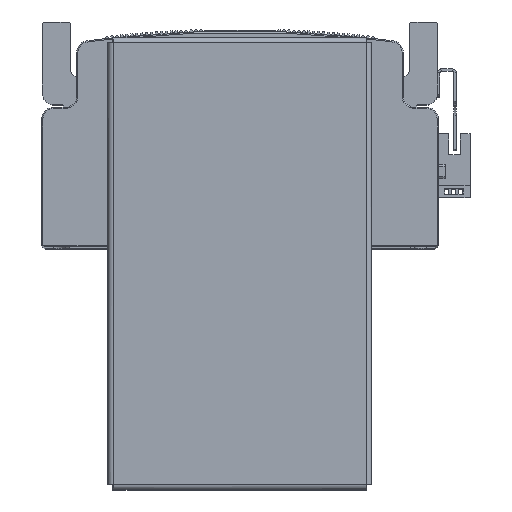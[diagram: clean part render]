
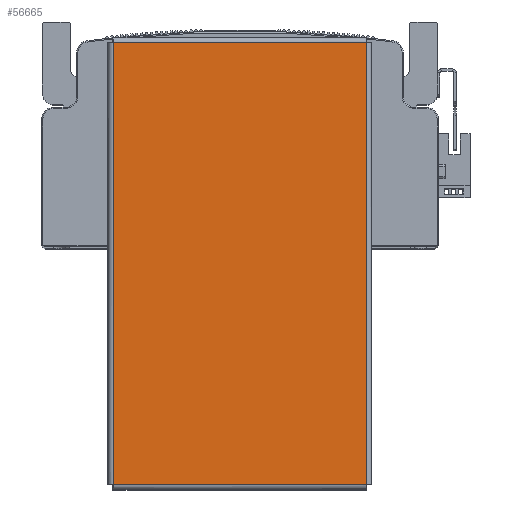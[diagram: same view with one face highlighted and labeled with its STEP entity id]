
A CAD part, top view. The second image highlights one B-rep face of the part: STEP entity #56665.
In plain terms, the highlighted planar face has unit normal (0, 0, 1) as drawn and (0, -1, 0) by its records, which use the part's own axes.
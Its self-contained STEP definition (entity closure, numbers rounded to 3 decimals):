
#2137 = EDGE_LOOP ( 'NONE', ( #43459, #43416, #43505, #43516 ) ) ;
#6249 = CARTESIAN_POINT ( 'NONE',  ( -94.763, -1.5, 54.393 ) ) ;
#6250 = DIRECTION ( 'NONE',  ( -1., 0., 0. ) ) ;
#6276 = DIRECTION ( 'NONE',  ( 0., 0., -1. ) ) ;
#6281 = CARTESIAN_POINT ( 'NONE',  ( 94.793, -1.5, 54.363 ) ) ;
#7143 = CARTESIAN_POINT ( 'NONE',  ( -94.793, -1.5, -54.363 ) ) ;
#7149 = CARTESIAN_POINT ( 'NONE',  ( 94.763, -1.5, -54.393 ) ) ;
#7151 = DIRECTION ( 'NONE',  ( 1., 0., 0. ) ) ;
#7161 = DIRECTION ( 'NONE',  ( 0., 0., 1. ) ) ;
#19207 = LINE ( 'NONE', #7149, #19230 ) ;
#19208 = VECTOR ( 'NONE', #7151, 1000. ) ;
#19222 = LINE ( 'NONE', #6281, #19223 ) ;
#19223 = VECTOR ( 'NONE', #6250, 1000. ) ;
#19230 = VECTOR ( 'NONE', #7161, 1000. ) ;
#19232 = LINE ( 'NONE', #6249, #19247 ) ;
#19238 = LINE ( 'NONE', #7143, #19208 ) ;
#19247 = VECTOR ( 'NONE', #6276, 1000. ) ;
#23001 = FACE_OUTER_BOUND ( 'NONE', #2137, .T. ) ;
#24962 = PLANE ( 'NONE',  #25401 ) ;
#24980 = CARTESIAN_POINT ( 'NONE',  ( 0., -1.5, 0. ) ) ;
#24987 = DIRECTION ( 'NONE',  ( 0., 0., 1. ) ) ;
#24992 = DIRECTION ( 'NONE',  ( 0., 1., 0. ) ) ;
#25401 = AXIS2_PLACEMENT_3D ( 'NONE', #24980, #24992, #24987 ) ;
#36627 = VERTEX_POINT ( 'NONE', #43792 ) ;
#36694 = VERTEX_POINT ( 'NONE', #43877 ) ;
#36704 = VERTEX_POINT ( 'NONE', #43850 ) ;
#36707 = VERTEX_POINT ( 'NONE', #43853 ) ;
#43416 = ORIENTED_EDGE ( 'NONE', *, *, #58317, .T. ) ;
#43459 = ORIENTED_EDGE ( 'NONE', *, *, #58325, .T. ) ;
#43505 = ORIENTED_EDGE ( 'NONE', *, *, #58308, .T. ) ;
#43516 = ORIENTED_EDGE ( 'NONE', *, *, #58305, .T. ) ;
#43792 = CARTESIAN_POINT ( 'NONE',  ( 94.763, -1.5, 54.363 ) ) ;
#43850 = CARTESIAN_POINT ( 'NONE',  ( -94.763, -1.5, -54.363 ) ) ;
#43853 = CARTESIAN_POINT ( 'NONE',  ( -94.763, -1.5, 54.363 ) ) ;
#43877 = CARTESIAN_POINT ( 'NONE',  ( 94.763, -1.5, -54.363 ) ) ;
#56665 = ADVANCED_FACE ( 'NONE', ( #23001 ), #24962, .F. ) ;
#58305 = EDGE_CURVE ( 'NONE', #36694, #36627, #19207, .T. ) ;
#58308 = EDGE_CURVE ( 'NONE', #36704, #36694, #19238, .T. ) ;
#58317 = EDGE_CURVE ( 'NONE', #36707, #36704, #19232, .T. ) ;
#58325 = EDGE_CURVE ( 'NONE', #36627, #36707, #19222, .T. ) ;
